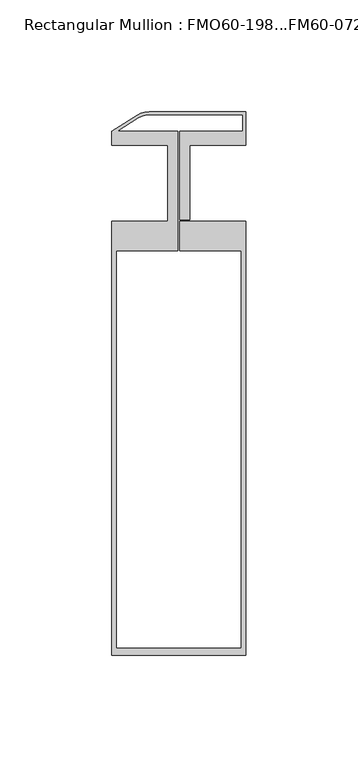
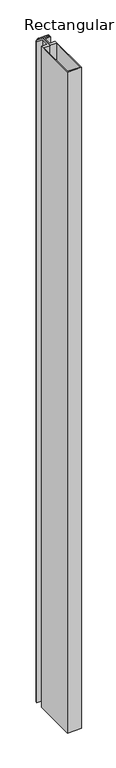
"""IFC4 building model written with IfcOpenShell, lengths in millimetres: member geometry, Rectangular Mullion : FMO60-198...FM60-072."""

from ifc_helpers import new_model, si_unit, point, frame, frame_2d, origin, place, context, project, spatial, polyline, circle_curve, trimmed, segment, composite_curve, outline, extrude, source, transform, mapped, element, save


def rectangular_mullion_fmo60_198_fm60_072_dd037897(model_context):
    return source(origin(), model_context, "Body", "SweptSolid", [
        extrude(outline(composite_curve([segment(polyline([(-13.300836, 32.0923794), (30.0, 32.0923794), (30.0, 17.0), (5.0004903, 17.0), (5.0004903, -16.2), (0.5, -16.2), (0.5, 23.4439081), (28.7000412, 23.4439081), (28.7000412, 30.7038439), (-13.4414405, 30.7038439)]), True, "CONTINUOUS"), segment(trimmed(circle_curve(frame_2d((-13.4414405, 22.0038439)), 8.7), [point((-13.4414405, 30.7038439))], [point((-18.0771682, 29.3659108))], True, "CARTESIAN"), True, "CONTINUOUS"), segment(polyline([(-18.0771682, 29.3659108), (-27.4819874, 23.4439081), (-0.5, 23.4439081), (-0.5, -29.9945801), (-28.0, -29.9945801), (-28.0, -207.9990579), (28.0, -207.9990579), (28.0, -29.9945801), (0.5, -29.9945801), (0.5, -17.0), (30.0, -17.0), (30.0, -210.9990579), (-30.0, -210.9990579), (-30.0, -17.0), (-4.9995097, -17.0), (-4.9995097, 17.0), (-30.0, 17.0), (-30.0, 23.3946256), (-18.6292586, 30.5545253)]), True, "CONTINUOUS"), segment(trimmed(circle_curve(frame_2d((-13.300836, 22.0923794)), 10.0), [point((-18.6292586, 30.5545253))], [point((-13.300836, 32.0923794))], False, "CARTESIAN"), True, "CONTINUOUS")], self_intersect=False)), frame((0.0, 0.0, -3000.0), z_axis=(0.0, 0.0, 1.0), x_axis=(1.0, 0.0, 0.0)), (0.0, 0.0, 1.0), 3000.0),
    ])


if __name__ == "__main__":
    model = new_model("IFC4")
    model_context = context("Model", 3, world=origin())
    ifc_project = project(units=[si_unit("LENGTHUNIT", "METRE", prefix="MILLI")], contexts=[model_context])
    site = spatial("IfcSite", under=ifc_project)
    building = spatial("IfcBuilding", under=site)
    placement = place(None, origin())
    rectangular_mullion_fmo60_198_fm60_072_shape = rectangular_mullion_fmo60_198_fm60_072_dd037897(model_context)
    element("IfcMember", 1, ObjectType="Rectangular Mullion : FMO60-198...FM60-072", at=placement, inside=building, context=model_context, shape_type="MappedRepresentation", body=[
        mapped(rectangular_mullion_fmo60_198_fm60_072_shape, transform((0.0, 0.0, 0.0), x_axis=(1.0, 0.0, 0.0), y_axis=(0.0, 1.0, 0.0), z_axis=(0.0, 0.0, 1.0))),
    ])
    save(model, "model.ifc")
